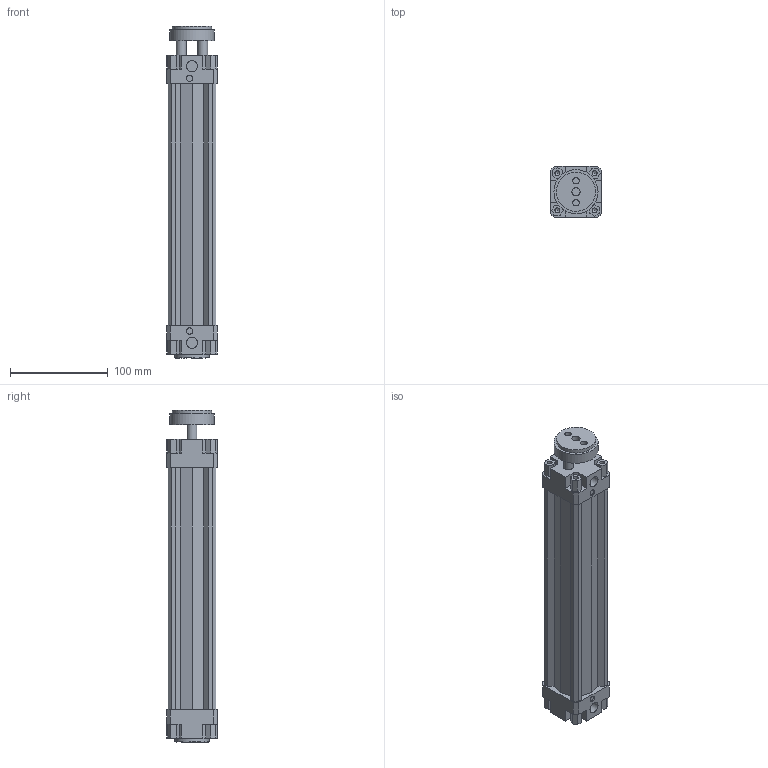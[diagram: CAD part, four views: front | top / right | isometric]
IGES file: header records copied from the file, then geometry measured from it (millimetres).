
Global section: file name: 132#_040_0200_01; native system: Autodesk Inventor 2014; preprocessor: unknown; author: A. Manieri; date: 20161006.154839; units: millimetre
Bounding box: 52 x 52 x 339 mm (x, y, z)
Volume: 429544.3 mm3; surface area: 141596.2 mm2
Topology: 2 solids, 2 shells, 180 faces, 492 edges, 336 vertices
Faces by surface type: bspline 180
